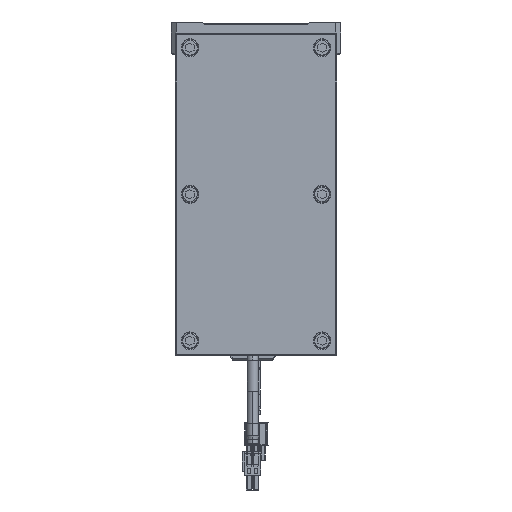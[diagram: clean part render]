
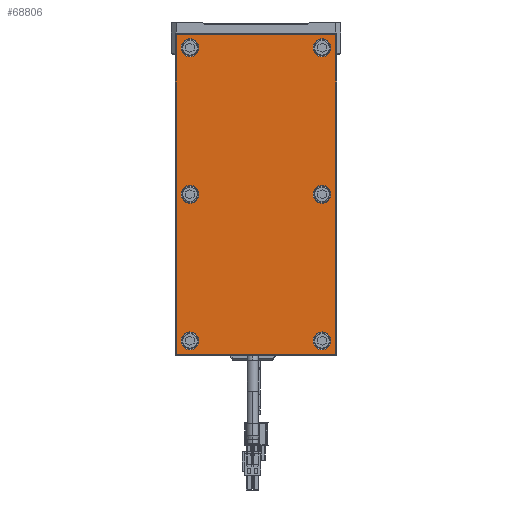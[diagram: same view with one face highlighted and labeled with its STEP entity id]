
A CAD part, front view. The second image highlights one B-rep face of the part: STEP entity #68806.
In plain terms, the highlighted planar face has unit normal (0, -1, 0).
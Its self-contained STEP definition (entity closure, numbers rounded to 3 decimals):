
#67395=CARTESIAN_POINT('',(99.,-7.,-49.));
#67396=DIRECTION('',(0.,-1.,0.));
#67397=DIRECTION('',(0.,0.,-1.));
#67398=AXIS2_PLACEMENT_3D('',#67395,#67396,#67397);
#67400=DIRECTION('',(1.,0.,0.));
#67401=VECTOR('',#67400,198.);
#67402=CARTESIAN_POINT('',(-99.,-7.,
-49.5));
#67403=LINE('',#67402,#67401);
#67404=CARTESIAN_POINT('',(-99.,-7.,-49.));
#67405=DIRECTION('',(0.,-1.,0.));
#67406=DIRECTION('',(-1.,0.,0.));
#67407=AXIS2_PLACEMENT_3D('',#67404,#67405,#67406);
#67409=DIRECTION('',(0.,0.,-1.));
#67410=VECTOR('',#67409,98.);
#67411=CARTESIAN_POINT('',(-99.5,-7.,
49.));
#67412=LINE('',#67411,#67410);
#67413=CARTESIAN_POINT('',(-99.,-7.,49.));
#67414=DIRECTION('',(0.,-1.,0.));
#67415=DIRECTION('',(0.,0.,1.));
#67416=AXIS2_PLACEMENT_3D('',#67413,#67414,#67415);
#67418=DIRECTION('',(-1.,0.,0.));
#67419=VECTOR('',#67418,198.);
#67420=CARTESIAN_POINT('',(99.,-7.,
49.5));
#67421=LINE('',#67420,#67419);
#67422=CARTESIAN_POINT('',(99.,-7.,49.));
#67423=DIRECTION('',(0.,-1.,0.));
#67424=DIRECTION('',(1.,0.,0.));
#67425=AXIS2_PLACEMENT_3D('',#67422,#67423,#67424);
#67427=DIRECTION('',(0.,0.,1.));
#67428=VECTOR('',#67427,98.);
#67429=CARTESIAN_POINT('',(99.5,-7.,
-49.));
#67430=LINE('',#67429,#67428);
#67431=CARTESIAN_POINT('',(-91.,-7.,-41.));
#67432=DIRECTION('',(0.,1.,0.));
#67433=DIRECTION('',(1.,0.,0.));
#67434=AXIS2_PLACEMENT_3D('',#67431,#67432,#67433);
#67436=CARTESIAN_POINT('',(-91.,-7.,-41.));
#67437=DIRECTION('',(0.,1.,0.));
#67438=DIRECTION('',(-1.,0.,0.));
#67439=AXIS2_PLACEMENT_3D('',#67436,#67437,#67438);
#67441=CARTESIAN_POINT('',(0.,-7.,-41.));
#67442=DIRECTION('',(0.,1.,0.));
#67443=DIRECTION('',(1.,0.,0.));
#67444=AXIS2_PLACEMENT_3D('',#67441,#67442,#67443);
#67446=CARTESIAN_POINT('',(0.,-7.,-41.));
#67447=DIRECTION('',(0.,1.,0.));
#67448=DIRECTION('',(-1.,0.,0.));
#67449=AXIS2_PLACEMENT_3D('',#67446,#67447,#67448);
#67451=CARTESIAN_POINT('',(91.,-7.,-41.));
#67452=DIRECTION('',(0.,1.,0.));
#67453=DIRECTION('',(1.,0.,0.));
#67454=AXIS2_PLACEMENT_3D('',#67451,#67452,#67453);
#67456=CARTESIAN_POINT('',(91.,-7.,-41.));
#67457=DIRECTION('',(0.,1.,0.));
#67458=DIRECTION('',(-1.,0.,0.));
#67459=AXIS2_PLACEMENT_3D('',#67456,#67457,#67458);
#67461=CARTESIAN_POINT('',(91.,-7.,41.));
#67462=DIRECTION('',(0.,1.,0.));
#67463=DIRECTION('',(1.,0.,0.));
#67464=AXIS2_PLACEMENT_3D('',#67461,#67462,#67463);
#67466=CARTESIAN_POINT('',(91.,-7.,41.));
#67467=DIRECTION('',(0.,1.,0.));
#67468=DIRECTION('',(-1.,0.,0.));
#67469=AXIS2_PLACEMENT_3D('',#67466,#67467,#67468);
#67471=CARTESIAN_POINT('',(0.,-7.,41.));
#67472=DIRECTION('',(0.,1.,0.));
#67473=DIRECTION('',(1.,0.,0.));
#67474=AXIS2_PLACEMENT_3D('',#67471,#67472,#67473);
#67476=CARTESIAN_POINT('',(0.,-7.,41.));
#67477=DIRECTION('',(0.,1.,0.));
#67478=DIRECTION('',(-1.,0.,0.));
#67479=AXIS2_PLACEMENT_3D('',#67476,#67477,#67478);
#67481=CARTESIAN_POINT('',(-91.,-7.,41.));
#67482=DIRECTION('',(0.,1.,0.));
#67483=DIRECTION('',(1.,0.,0.));
#67484=AXIS2_PLACEMENT_3D('',#67481,#67482,#67483);
#67486=CARTESIAN_POINT('',(-91.,-7.,41.));
#67487=DIRECTION('',(0.,1.,0.));
#67488=DIRECTION('',(-1.,0.,0.));
#67489=AXIS2_PLACEMENT_3D('',#67486,#67487,#67488);
#68547=CARTESIAN_POINT('',(99.,-7.,-49.5));
#68548=CARTESIAN_POINT('',(99.5,-7.,-49.));
#68549=VERTEX_POINT('',#68547);
#68550=VERTEX_POINT('',#68548);
#68555=CARTESIAN_POINT('',(99.5,-7.,
49.));
#68556=VERTEX_POINT('',#68555);
#68559=CARTESIAN_POINT('',(99.,-7.,49.5));
#68560=VERTEX_POINT('',#68559);
#68563=CARTESIAN_POINT('',(-99.,-7.,
49.5));
#68564=VERTEX_POINT('',#68563);
#68567=CARTESIAN_POINT('',(-99.5,-7.,49.));
#68568=VERTEX_POINT('',#68567);
#68571=CARTESIAN_POINT('',(-99.5,-7.,
-49.));
#68572=VERTEX_POINT('',#68571);
#68575=CARTESIAN_POINT('',(-99.,-7.,-49.5));
#68576=VERTEX_POINT('',#68575);
#68603=CARTESIAN_POINT('',(-85.45,-7.,-41.));
#68604=CARTESIAN_POINT('',(-96.55,-7.,-41.));
#68605=VERTEX_POINT('',#68603);
#68606=VERTEX_POINT('',#68604);
#68619=CARTESIAN_POINT('',(5.55,-7.,-41.));
#68620=CARTESIAN_POINT('',(-5.55,-7.,-41.));
#68621=VERTEX_POINT('',#68619);
#68622=VERTEX_POINT('',#68620);
#68643=CARTESIAN_POINT('',(96.55,-7.,-41.));
#68644=CARTESIAN_POINT('',(85.45,-7.,-41.));
#68645=VERTEX_POINT('',#68643);
#68646=VERTEX_POINT('',#68644);
#68659=CARTESIAN_POINT('',(96.55,-7.,41.));
#68660=CARTESIAN_POINT('',(85.45,-7.,41.));
#68661=VERTEX_POINT('',#68659);
#68662=VERTEX_POINT('',#68660);
#68667=CARTESIAN_POINT('',(5.55,-7.,41.));
#68668=CARTESIAN_POINT('',(-5.55,-7.,41.));
#68669=VERTEX_POINT('',#68667);
#68670=VERTEX_POINT('',#68668);
#68691=CARTESIAN_POINT('',(-85.45,-7.,41.));
#68692=CARTESIAN_POINT('',(-96.55,-7.,41.));
#68693=VERTEX_POINT('',#68691);
#68694=VERTEX_POINT('',#68692);
#68747=CARTESIAN_POINT('',(0.,-7.,0.));
#68748=DIRECTION('',(0.,1.,0.));
#68749=DIRECTION('',(1.,0.,0.));
#68750=AXIS2_PLACEMENT_3D('',#68747,#68748,#68749);
#68751=PLANE('',#68750);
#68753=ORIENTED_EDGE('',*,*,#68752,.F.);
#68755=ORIENTED_EDGE('',*,*,#68754,.F.);
#68757=ORIENTED_EDGE('',*,*,#68756,.F.);
#68759=ORIENTED_EDGE('',*,*,#68758,.F.);
#68761=ORIENTED_EDGE('',*,*,#68760,.F.);
#68763=ORIENTED_EDGE('',*,*,#68762,.F.);
#68765=ORIENTED_EDGE('',*,*,#68764,.F.);
#68767=ORIENTED_EDGE('',*,*,#68766,.F.);
#68768=EDGE_LOOP('',(#68753,#68755,#68757,#68759,#68761,#68763,#68765,#68767));
#68769=FACE_OUTER_BOUND('',#68768,.F.);
#68771=ORIENTED_EDGE('',*,*,#68770,.F.);
#68773=ORIENTED_EDGE('',*,*,#68772,.F.);
#68774=EDGE_LOOP('',(#68771,#68773));
#68775=FACE_BOUND('',#68774,.F.);
#68777=ORIENTED_EDGE('',*,*,#68776,.F.);
#68779=ORIENTED_EDGE('',*,*,#68778,.F.);
#68780=EDGE_LOOP('',(#68777,#68779));
#68781=FACE_BOUND('',#68780,.F.);
#68783=ORIENTED_EDGE('',*,*,#68782,.F.);
#68785=ORIENTED_EDGE('',*,*,#68784,.F.);
#68786=EDGE_LOOP('',(#68783,#68785));
#68787=FACE_BOUND('',#68786,.F.);
#68789=ORIENTED_EDGE('',*,*,#68788,.F.);
#68791=ORIENTED_EDGE('',*,*,#68790,.F.);
#68792=EDGE_LOOP('',(#68789,#68791));
#68793=FACE_BOUND('',#68792,.F.);
#68795=ORIENTED_EDGE('',*,*,#68794,.F.);
#68797=ORIENTED_EDGE('',*,*,#68796,.F.);
#68798=EDGE_LOOP('',(#68795,#68797));
#68799=FACE_BOUND('',#68798,.F.);
#68801=ORIENTED_EDGE('',*,*,#68800,.F.);
#68803=ORIENTED_EDGE('',*,*,#68802,.F.);
#68804=EDGE_LOOP('',(#68801,#68803));
#68805=FACE_BOUND('',#68804,.F.);
#68806=ADVANCED_FACE('',(#68769,#68775,#68781,#68787,#68793,#68799,#68805),
#68751,.F.);
#67399=CIRCLE('',#67398,0.5);
#67408=CIRCLE('',#67407,0.5);
#67417=CIRCLE('',#67416,0.5);
#67426=CIRCLE('',#67425,0.5);
#67435=CIRCLE('',#67434,5.55);
#67440=CIRCLE('',#67439,5.55);
#67445=CIRCLE('',#67444,5.55);
#67450=CIRCLE('',#67449,5.55);
#67455=CIRCLE('',#67454,5.55);
#67460=CIRCLE('',#67459,5.55);
#67465=CIRCLE('',#67464,5.55);
#67470=CIRCLE('',#67469,5.55);
#67475=CIRCLE('',#67474,5.55);
#67480=CIRCLE('',#67479,5.55);
#67485=CIRCLE('',#67484,5.55);
#67490=CIRCLE('',#67489,5.55);
#68752=EDGE_CURVE('',#68549,#68550,#67399,.T.);
#68754=EDGE_CURVE('',#68576,#68549,#67403,.T.);
#68756=EDGE_CURVE('',#68572,#68576,#67408,.T.);
#68758=EDGE_CURVE('',#68568,#68572,#67412,.T.);
#68760=EDGE_CURVE('',#68564,#68568,#67417,.T.);
#68762=EDGE_CURVE('',#68560,#68564,#67421,.T.);
#68764=EDGE_CURVE('',#68556,#68560,#67426,.T.);
#68766=EDGE_CURVE('',#68550,#68556,#67430,.T.);
#68770=EDGE_CURVE('',#68605,#68606,#67435,.T.);
#68772=EDGE_CURVE('',#68606,#68605,#67440,.T.);
#68776=EDGE_CURVE('',#68621,#68622,#67445,.T.);
#68778=EDGE_CURVE('',#68622,#68621,#67450,.T.);
#68782=EDGE_CURVE('',#68645,#68646,#67455,.T.);
#68784=EDGE_CURVE('',#68646,#68645,#67460,.T.);
#68788=EDGE_CURVE('',#68661,#68662,#67465,.T.);
#68790=EDGE_CURVE('',#68662,#68661,#67470,.T.);
#68794=EDGE_CURVE('',#68669,#68670,#67475,.T.);
#68796=EDGE_CURVE('',#68670,#68669,#67480,.T.);
#68800=EDGE_CURVE('',#68693,#68694,#67485,.T.);
#68802=EDGE_CURVE('',#68694,#68693,#67490,.T.);
